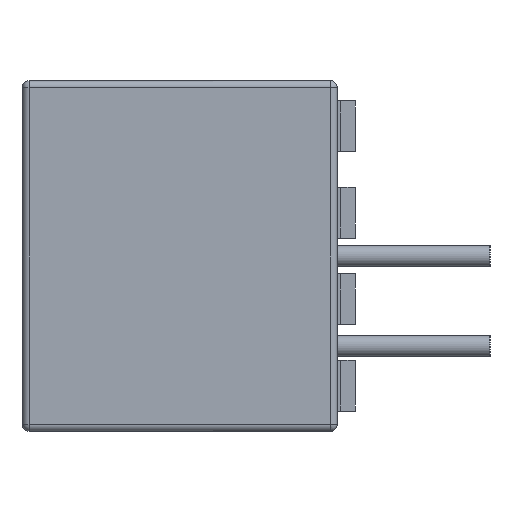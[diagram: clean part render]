
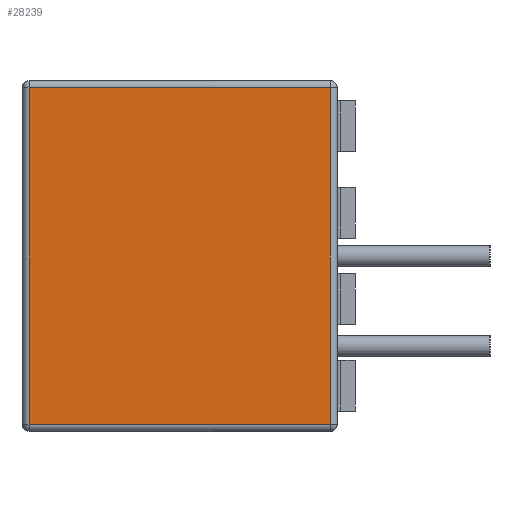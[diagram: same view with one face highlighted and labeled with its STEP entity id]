
A CAD part, left-side view. The second image highlights one B-rep face of the part: STEP entity #28239.
In plain terms, the highlighted planar face has unit normal (-1, 0, 0).
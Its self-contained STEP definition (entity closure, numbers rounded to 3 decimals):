
#6519 = DIRECTION ( 'NONE',  ( 0., -1., 0. ) ) ;
#6520 = VECTOR ( 'NONE', #6519, 1000. ) ;
#6521 = CARTESIAN_POINT ( 'NONE',  ( -14.5, 0.004, -4.75 ) ) ;
#6522 = DIRECTION ( 'NONE',  ( 0., -1., 0. ) ) ;
#6523 = DIRECTION ( 'NONE',  ( -1., 0., 0. ) ) ;
#6524 = CARTESIAN_POINT ( 'NONE',  ( -14.5, 0., 4.95 ) ) ;
#6525 = LINE ( 'NONE', #6521, #6520 ) ;
#6526 = AXIS2_PLACEMENT_3D ( 'NONE', #6524, #6523, #6522 ) ;
#6527 = PLANE ( 'NONE',  #6526 ) ;
#6528 = FACE_OUTER_BOUND ( 'NONE', #28240, .T. ) ;
#6571 = CARTESIAN_POINT ( 'NONE',  ( -14.497, 8.69, 4.747 ) ) ;
#6572 = DIRECTION ( 'NONE',  ( 0., 1., 0. ) ) ;
#6573 = VECTOR ( 'NONE', #6572, 1000. ) ;
#6574 = CARTESIAN_POINT ( 'NONE',  ( -14.5, 0., 4.75 ) ) ;
#6575 = LINE ( 'NONE', #6574, #6573 ) ;
#6576 = CARTESIAN_POINT ( 'NONE',  ( -14.5, 0.2, 4.75 ) ) ;
#6577 = DIRECTION ( 'NONE',  ( 0., 0., 1. ) ) ;
#6578 = VECTOR ( 'NONE', #6577, 1000. ) ;
#6579 = CARTESIAN_POINT ( 'NONE',  ( -14.5, 0.2, 4.95 ) ) ;
#6580 = LINE ( 'NONE', #6579, #6578 ) ;
#6581 = CARTESIAN_POINT ( 'NONE',  ( -14.5, 0.2, -4.75 ) ) ;
#6582 = CARTESIAN_POINT ( 'NONE',  ( -14.497, 8.69, -4.747 ) ) ;
#6700 = DIRECTION ( 'NONE',  ( 0., 0., -1. ) ) ;
#6701 = VECTOR ( 'NONE', #6700, 1000. ) ;
#6702 = CARTESIAN_POINT ( 'NONE',  ( -14.497, 8.69, -4.947 ) ) ;
#6703 = LINE ( 'NONE', #6702, #6701 ) ;
#28239 = ADVANCED_FACE ( 'NONE', ( #6528 ), #6527, .T. ) ;
#28240 = EDGE_LOOP ( 'NONE', ( #28241, #28246, #28249, #28338 ) ) ;
#28241 = ORIENTED_EDGE ( 'NONE', *, *, #28242, .T. ) ;
#28242 = EDGE_CURVE ( 'NONE', #28243, #28245, #6525, .T. ) ;
#28243 = VERTEX_POINT ( 'NONE', #6582 ) ;
#28245 = VERTEX_POINT ( 'NONE', #6581 ) ;
#28246 = ORIENTED_EDGE ( 'NONE', *, *, #28247, .T. ) ;
#28247 = EDGE_CURVE ( 'NONE', #28245, #28248, #6580, .T. ) ;
#28248 = VERTEX_POINT ( 'NONE', #6576 ) ;
#28249 = ORIENTED_EDGE ( 'NONE', *, *, #28250, .T. ) ;
#28250 = EDGE_CURVE ( 'NONE', #28248, #28251, #6575, .T. ) ;
#28251 = VERTEX_POINT ( 'NONE', #6571 ) ;
#28338 = ORIENTED_EDGE ( 'NONE', *, *, #28339, .T. ) ;
#28339 = EDGE_CURVE ( 'NONE', #28251, #28243, #6703, .T. ) ;
